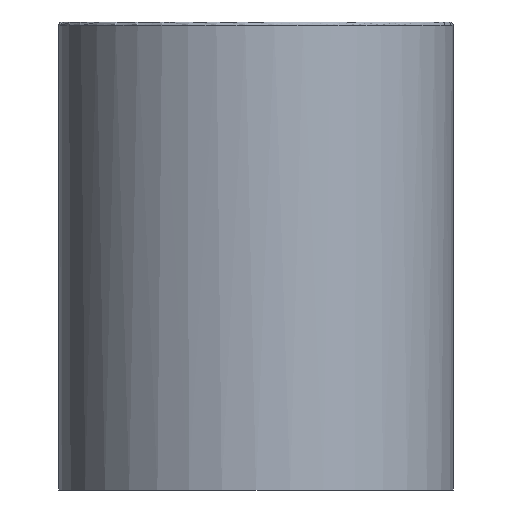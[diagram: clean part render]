
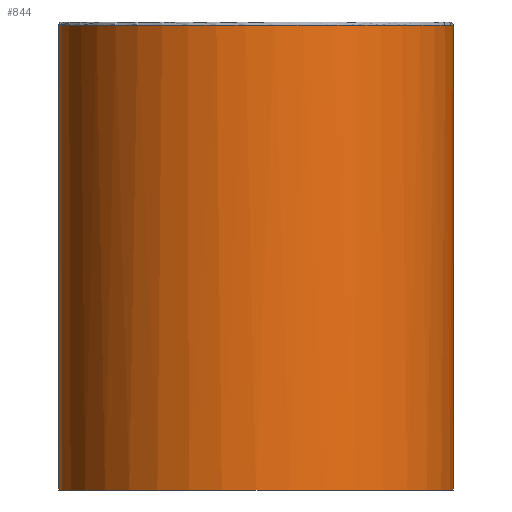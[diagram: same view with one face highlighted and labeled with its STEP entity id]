
A CAD part, left-side view. The second image highlights one B-rep face of the part: STEP entity #844.
In plain terms, the highlighted cylindrical face has radius 29.503 mm (diameter 59.005 mm), a partial arc.
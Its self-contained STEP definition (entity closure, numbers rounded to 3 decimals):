
#32=B_SPLINE_CURVE_WITH_KNOTS('',3,(#1480,#1481,#1482,#1483,#1484,#1485,
#1486,#1487),.UNSPECIFIED.,.F.,.F.,(4,1,1,1,1,4),(0.,0.2,0.4,0.6,0.8,1.),
 .UNSPECIFIED.);
#82=LINE('',#1593,#130);
#83=LINE('',#1594,#131);
#130=VECTOR('',#1189,304.8);
#131=VECTOR('',#1190,304.8);
#160=CYLINDRICAL_SURFACE('',#950,29.503);
#204=FACE_OUTER_BOUND('',#258,.T.);
#258=EDGE_LOOP('',(#698,#699,#700,#701));
#328=CIRCLE('',#951,29.503);
#400=VERTEX_POINT('',#1478);
#401=VERTEX_POINT('',#1479);
#402=VERTEX_POINT('',#1590);
#403=VERTEX_POINT('',#1591);
#504=EDGE_CURVE('',#400,#401,#32,.T.);
#508=EDGE_CURVE('',#402,#403,#328,.T.);
#509=EDGE_CURVE('',#400,#402,#82,.T.);
#510=EDGE_CURVE('',#403,#401,#83,.T.);
#698=ORIENTED_EDGE('',*,*,#508,.F.);
#699=ORIENTED_EDGE('',*,*,#509,.F.);
#700=ORIENTED_EDGE('',*,*,#504,.T.);
#701=ORIENTED_EDGE('',*,*,#510,.F.);
#844=ADVANCED_FACE('',(#204),#160,.T.);
#950=AXIS2_PLACEMENT_3D('',#1589,#1185,#1186);
#951=AXIS2_PLACEMENT_3D('',#1592,#1187,#1188);
#1185=DIRECTION('center_axis',(0.,0.,1.));
#1186=DIRECTION('ref_axis',(0.,1.,0.));
#1187=DIRECTION('center_axis',(0.,0.,-1.));
#1188=DIRECTION('ref_axis',(0.,1.,0.));
#1189=DIRECTION('',(0.,0.,-1.));
#1190=DIRECTION('',(0.,0.,1.));
#1478=CARTESIAN_POINT('',(0.,29.503,69.485));
#1479=CARTESIAN_POINT('',(0.,-29.503,69.485));
#1480=CARTESIAN_POINT('Ctrl Pts',(0.,29.503,
69.485));
#1481=CARTESIAN_POINT('Ctrl Pts',(6.339,29.721,69.485));
#1482=CARTESIAN_POINT('Ctrl Pts',(18.445,25.388,69.485));
#1483=CARTESIAN_POINT('Ctrl Pts',(29.981,9.771,69.485));
#1484=CARTESIAN_POINT('Ctrl Pts',(29.981,-9.771,69.485));
#1485=CARTESIAN_POINT('Ctrl Pts',(18.445,-25.388,69.485));
#1486=CARTESIAN_POINT('Ctrl Pts',(6.339,-29.721,69.485));
#1487=CARTESIAN_POINT('Ctrl Pts',(0.,-29.503,
69.485));
#1589=CARTESIAN_POINT('Origin',(0.,0.,1792.792));
#1590=CARTESIAN_POINT('',(0.,29.503,0.));
#1591=CARTESIAN_POINT('',(0.,-29.503,0.));
#1592=CARTESIAN_POINT('Origin',(0.,0.,0.));
#1593=CARTESIAN_POINT('',(0.,29.503,69.485));
#1594=CARTESIAN_POINT('',(0.,-29.503,0.));
